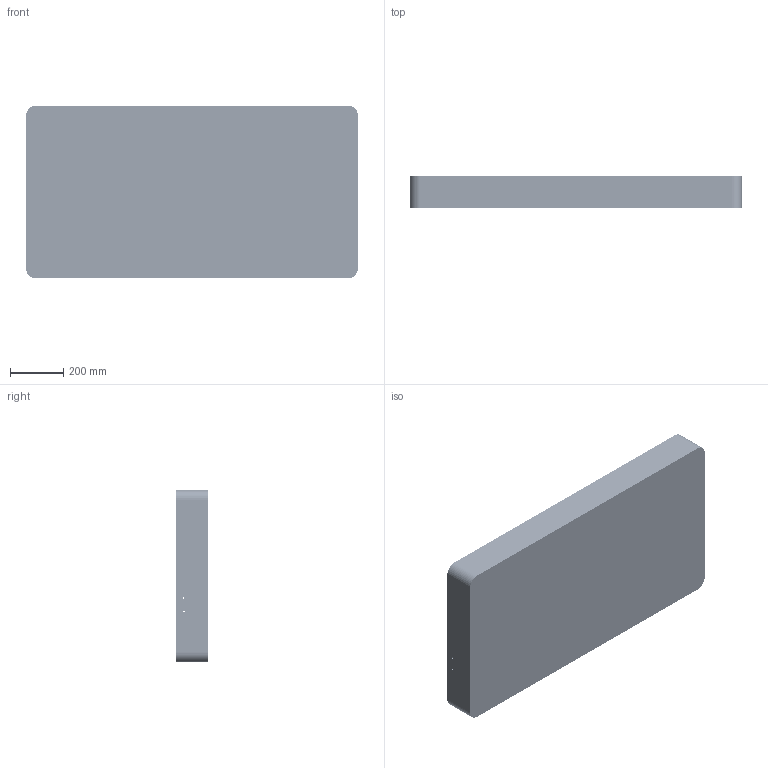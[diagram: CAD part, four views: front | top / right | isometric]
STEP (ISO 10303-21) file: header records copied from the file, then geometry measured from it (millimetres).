
FILE_DESCRIPTION (( 'STEP AP203' ), '1' );
FILE_NAME ('0550-931T-CLR OEM.STEP', '2010-05-14T16:18:09', ( ' ' ), ( ' ' ), 'SwSTEP 2.0', 'SolidWorks 2007', '' );
FILE_SCHEMA (( 'CONFIG_CONTROL_DESIGN' ));
Products named in the file (1): 0550-931T-CLR OEM
Bounding box: 1244.59 x 120.65 x 647.69 mm (x, y, z)
Volume: 21344084.1 mm3; surface area: 3495523.4 mm2
Topology: 1 solids, 1 shells, 8291 faces, 20290 edges, 11216 vertices
Faces by surface type: cylinder 3892, plane 2007, sphere 1210, bspline 1022, torus 85, cone 75
Entity records: 267056 total; most frequent: CARTESIAN_POINT 93672, ORIENTED_EDGE 38286, DIRECTION 34873, EDGE_CURVE 19143, AXIS2_PLACEMENT_3D 13108, VERTEX_POINT 11162, LINE 8657, VECTOR 8657
